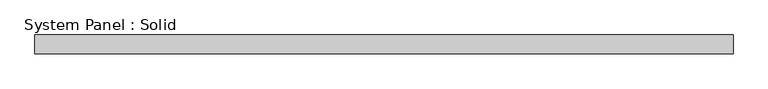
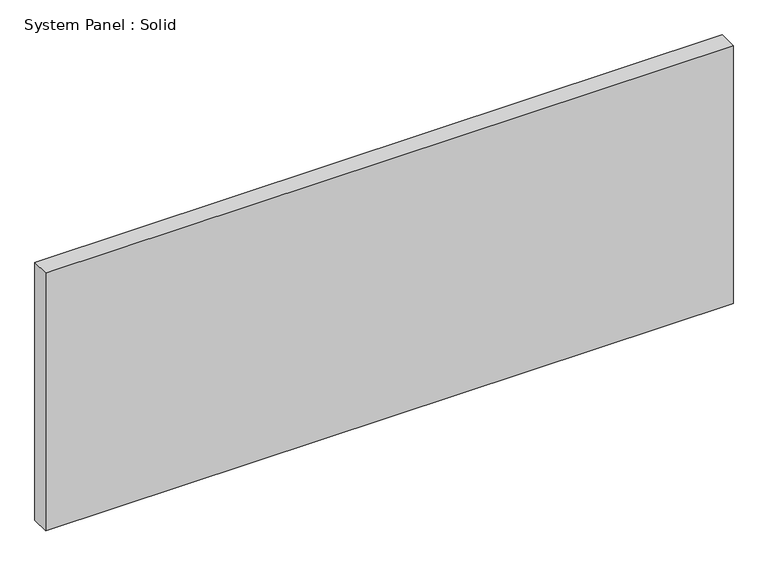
"""IFC4 building model written with IfcOpenShell, lengths in millimetres: plate geometry, System Panel : Solid."""

from ifc_helpers import new_model, si_unit, origin, origin_with_axes, place, context, project, spatial, polyline, outline, extrude, source, transform, mapped, element, save


def system_panel_solid_a8b18003(model_context):
    return source(origin(), model_context, "Body", "SweptSolid", [
        extrude(outline(polyline([(1177.3289338, -19.05), (-1177.3289338, -19.05), (-1177.3289338, 44.45), (1177.3289338, 44.45), (1177.3289338, -19.05)])), origin_with_axes(), (0.0, 0.0, 1.0), 934.4542378),
    ])


if __name__ == "__main__":
    model = new_model("IFC4")
    model_context = context("Model", 3, world=origin())
    ifc_project = project(units=[si_unit("LENGTHUNIT", "METRE", prefix="MILLI")], contexts=[model_context])
    site = spatial("IfcSite", under=ifc_project)
    building = spatial("IfcBuilding", under=site)
    placement = place(None, origin())
    system_panel_solid_shape = system_panel_solid_a8b18003(model_context)
    element("IfcPlate", 1, ObjectType="System Panel : Solid", at=placement, inside=building, context=model_context, shape_type="MappedRepresentation", body=[
        mapped(system_panel_solid_shape, transform((0.0, 0.0, 0.0), x_axis=(1.0, 0.0, 0.0), y_axis=(0.0, 1.0, 0.0), z_axis=(0.0, 0.0, 1.0))),
    ])
    save(model, "model.ifc")
